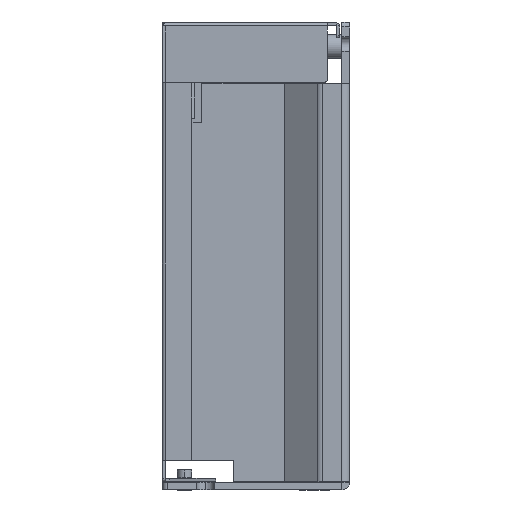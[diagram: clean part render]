
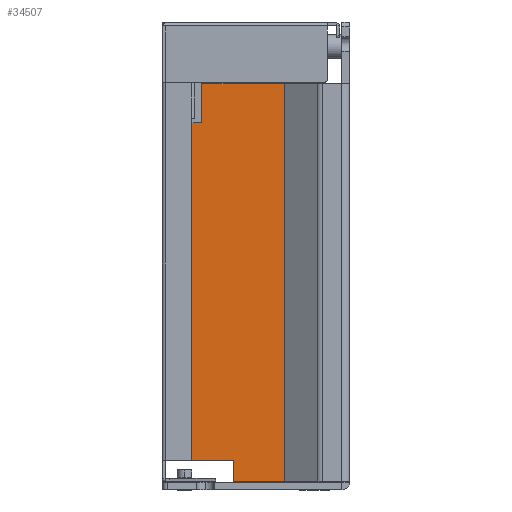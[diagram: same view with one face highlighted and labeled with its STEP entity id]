
A CAD part, left-side view. The second image highlights one B-rep face of the part: STEP entity #34507.
In plain terms, the highlighted planar face has unit normal (-1, 0, 0).
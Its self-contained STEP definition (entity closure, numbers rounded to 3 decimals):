
#8581 = CARTESIAN_POINT ( 'NONE',  ( -154.9, 32., -20.5 ) ) ;
#10451 = CIRCLE ( 'NONE', #19037, 1. ) ;
#10452 = CIRCLE ( 'NONE', #19040, 1. ) ;
#15965 = FACE_OUTER_BOUND ( 'NONE', #27910, .T. ) ;
#15972 = AXIS2_PLACEMENT_3D ( 'NONE', #16645, #16646, #16647 ) ;
#16644 = PLANE ( 'NONE',  #15972 ) ;
#16645 = CARTESIAN_POINT ( 'NONE',  ( -154.9, 34.41, -13.5 ) ) ;
#16646 = DIRECTION ( 'NONE',  ( -1., 0., 0. ) ) ;
#16647 = DIRECTION ( 'NONE',  ( 0., -1., 0. ) ) ;
#18464 = CARTESIAN_POINT ( 'NONE',  ( -154.9, 36., -13.5 ) ) ;
#18489 = LINE ( 'NONE', #18490, #19034 ) ;
#18490 = CARTESIAN_POINT ( 'NONE',  ( -154.9, 32., -12.5 ) ) ;
#18491 = DIRECTION ( 'NONE',  ( 0., 0., -1. ) ) ;
#18492 = LINE ( 'NONE', #18493, #19036 ) ;
#18493 = CARTESIAN_POINT ( 'NONE',  ( -154.9, 32., -20.5 ) ) ;
#18494 = DIRECTION ( 'NONE',  ( 0., -1., 0. ) ) ;
#18495 = LINE ( 'NONE', #18496, #19038 ) ;
#18496 = CARTESIAN_POINT ( 'NONE',  ( -154.9, 0.01, -12.5 ) ) ;
#18497 = DIRECTION ( 'NONE',  ( 0., -1., 0. ) ) ;
#18498 = DIRECTION ( 'NONE',  ( 1., 0., 0. ) ) ;
#18499 = DIRECTION ( 'NONE',  ( 0., -1., 0. ) ) ;
#18500 = CARTESIAN_POINT ( 'NONE',  ( -154.9, 36., -88. ) ) ;
#18501 = LINE ( 'NONE', #18502, #19041 ) ;
#18502 = CARTESIAN_POINT ( 'NONE',  ( -154.9, 37., -13.5 ) ) ;
#18503 = DIRECTION ( 'NONE',  ( 0., 0., 1. ) ) ;
#18504 = DIRECTION ( 'NONE',  ( 1., 0., 0. ) ) ;
#18505 = DIRECTION ( 'NONE',  ( 0., 1., 0. ) ) ;
#18507 = LINE ( 'NONE', #18508, #19042 ) ;
#18508 = CARTESIAN_POINT ( 'NONE',  ( -154.9, 36., -89. ) ) ;
#18509 = DIRECTION ( 'NONE',  ( 0., 1., 0. ) ) ;
#18510 = LINE ( 'NONE', #18511, #19043 ) ;
#18511 = CARTESIAN_POINT ( 'NONE',  ( -154.9, 23.6, -89. ) ) ;
#18512 = DIRECTION ( 'NONE',  ( 0., 0., 1. ) ) ;
#18513 = LINE ( 'NONE', #18514, #19044 ) ;
#18514 = CARTESIAN_POINT ( 'NONE',  ( -154.9, 35.41, -93.3 ) ) ;
#18515 = DIRECTION ( 'NONE',  ( 0., 1., 0. ) ) ;
#18516 = LINE ( 'NONE', #18517, #19045 ) ;
#18517 = CARTESIAN_POINT ( 'NONE',  ( -154.9, 13.203, -13.5 ) ) ;
#18518 = DIRECTION ( 'NONE',  ( 0., 0., 1. ) ) ;
#18519 = LINE ( 'NONE', #18520, #19046 ) ;
#18520 = CARTESIAN_POINT ( 'NONE',  ( -154.9, 0.01, -12.5 ) ) ;
#18521 = DIRECTION ( 'NONE',  ( 0., -1., 0. ) ) ;
#18522 = LINE ( 'NONE', #18523, #19047 ) ;
#18523 = CARTESIAN_POINT ( 'NONE',  ( -154.9, 30., -20.5 ) ) ;
#18524 = DIRECTION ( 'NONE',  ( 0., 0., 1. ) ) ;
#19034 = VECTOR ( 'NONE', #18491, 1000. ) ;
#19036 = VECTOR ( 'NONE', #18494, 1000. ) ;
#19037 = AXIS2_PLACEMENT_3D ( 'NONE', #18464, #18498, #18499 ) ;
#19038 = VECTOR ( 'NONE', #18497, 1000. ) ;
#19040 = AXIS2_PLACEMENT_3D ( 'NONE', #18500, #18504, #18505 ) ;
#19041 = VECTOR ( 'NONE', #18503, 1000. ) ;
#19042 = VECTOR ( 'NONE', #18509, 1000. ) ;
#19043 = VECTOR ( 'NONE', #18512, 1000. ) ;
#19044 = VECTOR ( 'NONE', #18515, 1000. ) ;
#19045 = VECTOR ( 'NONE', #18518, 1000. ) ;
#19046 = VECTOR ( 'NONE', #18521, 1000. ) ;
#19047 = VECTOR ( 'NONE', #18524, 1000. ) ;
#20062 = CARTESIAN_POINT ( 'NONE',  ( -154.9, 30., -20.5 ) ) ;
#20063 = CARTESIAN_POINT ( 'NONE',  ( -154.9, 32., -12.5 ) ) ;
#20064 = CARTESIAN_POINT ( 'NONE',  ( -154.9, 36., -12.5 ) ) ;
#20065 = CARTESIAN_POINT ( 'NONE',  ( -154.9, 37., -13.5 ) ) ;
#20066 = CARTESIAN_POINT ( 'NONE',  ( -154.9, 37., -88. ) ) ;
#20067 = CARTESIAN_POINT ( 'NONE',  ( -154.9, 36., -89. ) ) ;
#20068 = CARTESIAN_POINT ( 'NONE',  ( -154.9, 23.6, -89. ) ) ;
#20069 = CARTESIAN_POINT ( 'NONE',  ( -154.9, 23.6, -93.3 ) ) ;
#20070 = CARTESIAN_POINT ( 'NONE',  ( -154.9, 13.203, -93.3 ) ) ;
#20071 = CARTESIAN_POINT ( 'NONE',  ( -154.9, 13.203, -12.5 ) ) ;
#20072 = CARTESIAN_POINT ( 'NONE',  ( -154.9, 30., -12.5 ) ) ;
#27910 = EDGE_LOOP ( 'NONE', ( #38925, #38927, #38926, #38928, #38929, #38930, #38931, #38932, #38933, #38934, #38935, #38936 ) ) ;
#31980 = VERTEX_POINT ( 'NONE', #8581 ) ;
#34507 = ADVANCED_FACE ( 'NONE', ( #15965 ), #16644, .T. ) ;
#37411 = EDGE_CURVE ( 'NONE', #38958, #31980, #18489, .T. ) ;
#37412 = EDGE_CURVE ( 'NONE', #31980, #38957, #18492, .T. ) ;
#37413 = EDGE_CURVE ( 'NONE', #38959, #38958, #18495, .T. ) ;
#37414 = EDGE_CURVE ( 'NONE', #38960, #38959, #10451, .T. ) ;
#37415 = EDGE_CURVE ( 'NONE', #38961, #38960, #18501, .T. ) ;
#37416 = EDGE_CURVE ( 'NONE', #38962, #38961, #10452, .T. ) ;
#37417 = EDGE_CURVE ( 'NONE', #38963, #38962, #18507, .T. ) ;
#37418 = EDGE_CURVE ( 'NONE', #38964, #38963, #18510, .T. ) ;
#37419 = EDGE_CURVE ( 'NONE', #38965, #38964, #18513, .T. ) ;
#37420 = EDGE_CURVE ( 'NONE', #38965, #38966, #18516, .T. ) ;
#37421 = EDGE_CURVE ( 'NONE', #38967, #38966, #18519, .T. ) ;
#37422 = EDGE_CURVE ( 'NONE', #38957, #38967, #18522, .T. ) ;
#38925 = ORIENTED_EDGE ( 'NONE', *, *, #37412, .F. ) ;
#38926 = ORIENTED_EDGE ( 'NONE', *, *, #37413, .F. ) ;
#38927 = ORIENTED_EDGE ( 'NONE', *, *, #37411, .F. ) ;
#38928 = ORIENTED_EDGE ( 'NONE', *, *, #37414, .F. ) ;
#38929 = ORIENTED_EDGE ( 'NONE', *, *, #37415, .F. ) ;
#38930 = ORIENTED_EDGE ( 'NONE', *, *, #37416, .F. ) ;
#38931 = ORIENTED_EDGE ( 'NONE', *, *, #37417, .F. ) ;
#38932 = ORIENTED_EDGE ( 'NONE', *, *, #37418, .F. ) ;
#38933 = ORIENTED_EDGE ( 'NONE', *, *, #37419, .F. ) ;
#38934 = ORIENTED_EDGE ( 'NONE', *, *, #37420, .T. ) ;
#38935 = ORIENTED_EDGE ( 'NONE', *, *, #37421, .F. ) ;
#38936 = ORIENTED_EDGE ( 'NONE', *, *, #37422, .F. ) ;
#38957 = VERTEX_POINT ( 'NONE', #20062 ) ;
#38958 = VERTEX_POINT ( 'NONE', #20063 ) ;
#38959 = VERTEX_POINT ( 'NONE', #20064 ) ;
#38960 = VERTEX_POINT ( 'NONE', #20065 ) ;
#38961 = VERTEX_POINT ( 'NONE', #20066 ) ;
#38962 = VERTEX_POINT ( 'NONE', #20067 ) ;
#38963 = VERTEX_POINT ( 'NONE', #20068 ) ;
#38964 = VERTEX_POINT ( 'NONE', #20069 ) ;
#38965 = VERTEX_POINT ( 'NONE', #20070 ) ;
#38966 = VERTEX_POINT ( 'NONE', #20071 ) ;
#38967 = VERTEX_POINT ( 'NONE', #20072 ) ;
